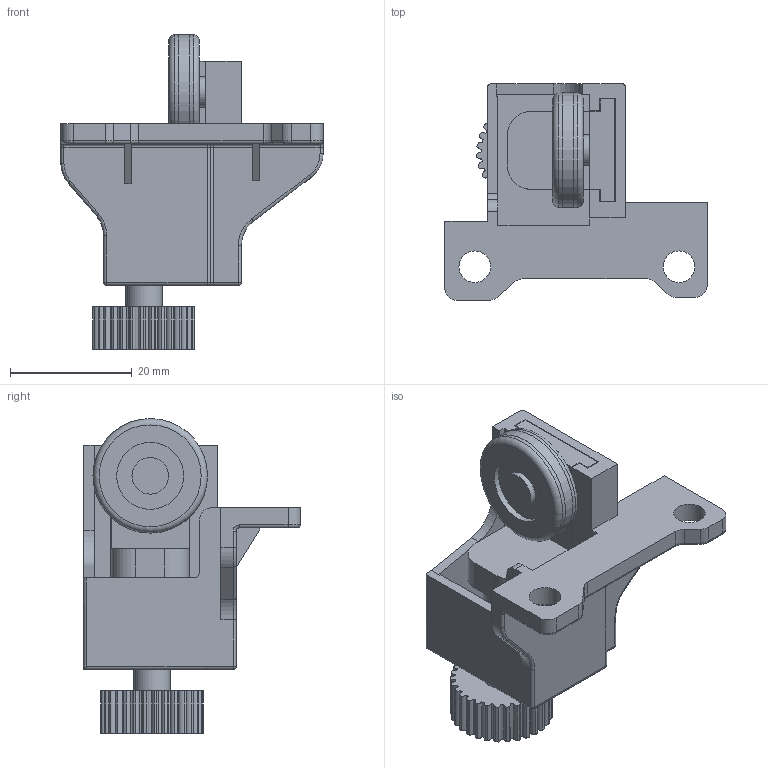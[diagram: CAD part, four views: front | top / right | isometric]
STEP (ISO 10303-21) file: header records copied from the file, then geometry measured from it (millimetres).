
FILE_DESCRIPTION(/* description */ (''),/* implementation_level */ '2;1');
FILE_NAME(/* name */ 'D:\$Workingspace\Designs\Katalog\Cadsoft\GTV Prwadnice II\PB-D(KW)\PB-D(KW)\Akcesoria\Bryły 3D MB akcesoria\PB-D-MBSTAB-00.stp',/* time_stamp */ '2017-02-09T10:38:29+01:00',/* author */ ('tomaszw'),/* organization */ (''),/* preprocessor_version */ 'ST-DEVELOPER v16.1',/* originating_system */ 'Autodesk Inventor 2016',/* authorisation */ '');
FILE_SCHEMA (('CONFIG_CONTROL_DESIGN'));
Length unit declared in the file: millimetre
Products named in the file (1): PB-D-MBSTAB-00
Bounding box: 43 x 35.5 x 51.65 mm (x, y, z)
Volume: 12118 mm3; surface area: 11653.8 mm2
Topology: 3 solids, 3 shells, 279 faces, 744 edges, 482 vertices
Faces by surface type: cylinder 180, plane 79, torus 16, sphere 4
Full cylindrical faces by diameter (mm): 5 x1, 5.2 x2, 6 x3, 11 x1, 15.214 x1, 18.7 x1, 18.8 x1
Entity records: 8783 total; most frequent: DIRECTION 1664, CARTESIAN_POINT 1490, ORIENTED_EDGE 1460, EDGE_CURVE 730, AXIS2_PLACEMENT_3D 654, VERTEX_POINT 480, CIRCLE 372, LINE 356
